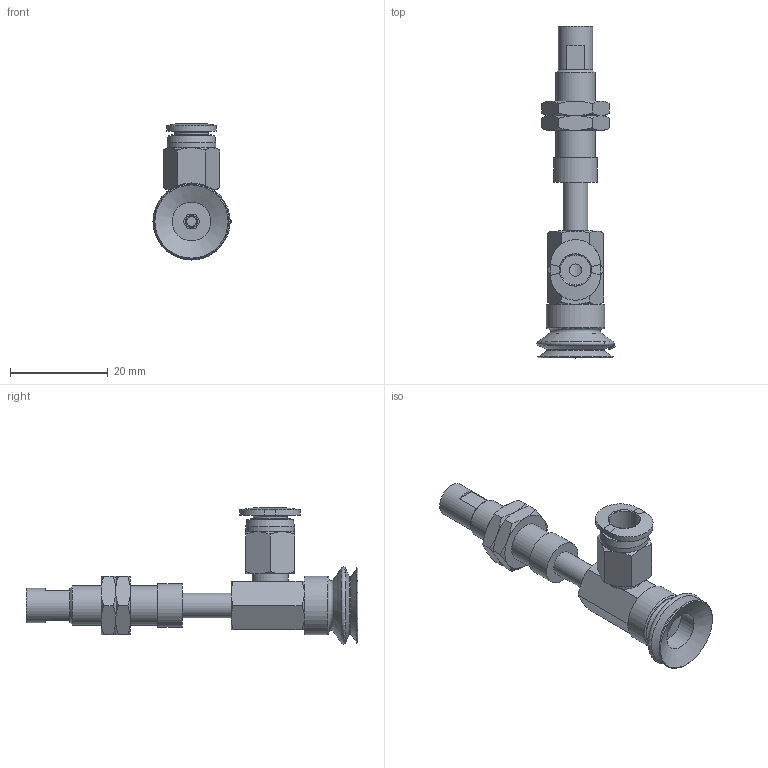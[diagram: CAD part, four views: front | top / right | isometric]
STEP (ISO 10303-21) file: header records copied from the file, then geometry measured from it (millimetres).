
FILE_DESCRIPTION(('STEP AP203'),'1');
FILE_NAME('-O.stp','2025-04-24T00:54:35',(' '),(' '),'Spatial InterOp 3D',' ',' ');
FILE_SCHEMA(('CONFIG_CONTROL_DESIGN'));
Length unit declared in the file: millimetre
Products named in the file (8): BNABPJYS-15-10-※-O; Adapter-15-NAPJ; CONNECTOR_S-15-10; NUT-NAPJ-15-10-s; NAPJTS-15-10-FBODY; NAPJTS-15-10-MBODY; BPJG-15-※; PC-C_06-M5
Assembly tree (8 placements, depth 2):
  BNABPJYS-15-10-※-O
    Adapter-15-NAPJ
    CONNECTOR_S-15-10
    NUT-NAPJ-15-10-s  x2
    NAPJTS-15-10-FBODY
    NAPJTS-15-10-MBODY
    BPJG-15-※
    PC-C_06-M5
Bounding box: 15.99 x 68 x 27.87 mm (x, y, z)
Volume: 4289.7 mm3; surface area: 6215.6 mm2
Topology: 7 solids, 10 shells, 202 faces, 425 edges, 255 vertices
Faces by surface type: plane 76, cone 71, cylinder 27, torus 11, bspline 10, sphere 4, revolution 3
Full cylindrical faces by diameter (mm): 2 x1, 2.5 x1, 4 x2, 4.134 x3, 4.6 x1, 5 x5, 7 x2, 7.188 x2, 7.4 x1, 7.9 x1, 8 x2, 8.2 x1, 9 x1, 10 x1, 12 x1
Entity records: 5296 total; most frequent: CARTESIAN_POINT 1466, DIRECTION 717, ORIENTED_EDGE 618, AXIS2_PLACEMENT_3D 315, EDGE_CURVE 311, EDGE_LOOP 261, VERTEX_POINT 216, FACE_OUTER_BOUND 152
